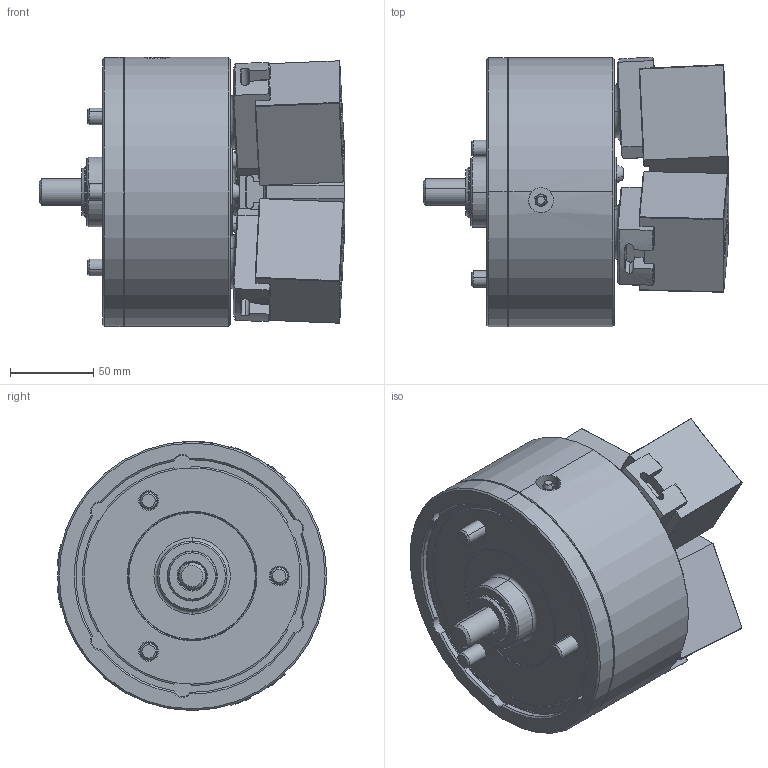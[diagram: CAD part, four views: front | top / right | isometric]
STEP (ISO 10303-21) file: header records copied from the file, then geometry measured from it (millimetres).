
FILE_DESCRIPTION (( 'STEP AP214' ), '1' );
FILE_NAME ('PW06_UC.STEP', '2019-10-03T02:03:00', ( '' ), ( '' ), 'SwSTEP 2.0', 'SolidWorks 2017', '' );
FILE_SCHEMA (( 'AUTOMOTIVE_DESIGN' ));
Length unit declared in the file: millimetre
Products named in the file (5): 結合_OD; 0030110016; 61P422013; 61P324975; PW06_UC
Assembly tree (13 placements, depth 2):
  PW06_UC
    61P324975  x3
    61P422013  x3
    0030110016  x6
    結合_OD
Bounding box: 184.06 x 162.18 x 162 mm (x, y, z)
Volume: 2043934.3 mm3; surface area: 228128.6 mm2
Topology: 13 solids, 14 shells, 1747 faces, 4288 edges, 2680 vertices
Faces by surface type: plane 848, cone 315, cylinder 276, bspline 241, torus 61, sphere 6
Entity records: 52960 total; most frequent: CARTESIAN_POINT 20111, ORIENTED_EDGE 7196, DIRECTION 5962, EDGE_CURVE 3598, VERTEX_POINT 2285, AXIS2_PLACEMENT_3D 2020, VECTOR 1922, LINE 1922
